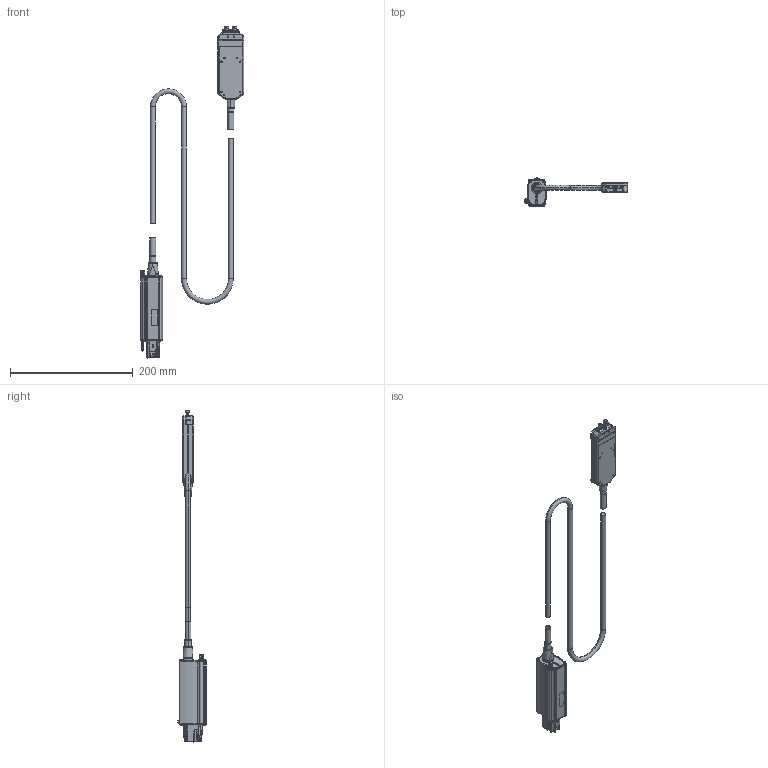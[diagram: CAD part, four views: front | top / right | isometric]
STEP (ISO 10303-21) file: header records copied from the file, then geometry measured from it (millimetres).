
FILE_DESCRIPTION((''),'2;1');
FILE_NAME('MASTER_SIGH_SGH_ASM','2022-02-28T10:57:19',('mthomps2'),(''),'CREO PARAMETRIC BY PTC INC, 2019080','CREO PARAMETRIC BY PTC INC, 2019080','');
FILE_SCHEMA(('CONFIG_CONTROL_DESIGN','SHAPE_APPEARANCE_LAYERS_GROUPS'));
Length unit declared in the file: inch
Products named in the file (44): MASTER_SKEL_SGH; PLATE_INTERFACE-TEKCON_CHT; NOSE_3_HPI; 211112500; BUTTON_LOCK_HPI; 211112900; MASTER_TEKCONNECT-COMMON_CHT_ASM; EXTRUSION_CONTROL_WSCREW_SGH; COVER_CONTROL-BOX_SGH; BRACKET_CONTROL_SGH; BRACKET_PCB-LABEL_SGH_ASM; COVER_CONTROL_MEMBRANE_SGH_ASM; PLATE_END_CONTROL-BOX; SCREW_THMB_2XL_SGH; CONN_BMA-34GHZ_SGH; BOOT_CB_SGH; CABLE_MAIN_HT_SHK_SV_SGH; CABLE_CONTROL_DRESS_SGH_ASM; NOSE_3_HPI_AF0; NOSE_MOD_HPI_ASK_ASM; MASTER_CONTROL-BOX_SGH_ASM; SKEL_MAINCABLE_SGH; CABLE_MAIN-RAW_SGH; BUSHING_PB-SV_SGH; BUSHING_INNER-CONE_SGH; BUSHING_PB-SV_SGH_ASM; CABLE_PROBEBODY_DRESS_SGH_ASM; MASTER_MAIN-CABLE-ASSY_SGH_ASM; PB_HOUSING_SGH; PB_HOUSING-COVER_SGH; LABEL_PB-TOP_SGH; LABEL_PB-BOT_SGH; PB_COVER-ESD_SGH; PBN_CISCO-ADAPT-BODY_SGH; SCREW_SHC_440_SGH; PBN_CISCO-ADAPT-LID_SGH; CONN_SW1014-21SF_SGH; SCREW_SHC_2-56X188_LIB_OBSOLETE; LABEL_CISCO-ADAPT-TOP_SGH; LABEL_CISCO_ADAPT-BOT_SGH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
Assembly tree (60 placements, depth 5):
  MASTER_SIGH_SGH_ASM
    MASTER_SKEL_SGH
    MASTER_CONTROL-BOX_SGH_ASM
      MASTER_TEKCONNECT-COMMON_CHT_ASM
        PLATE_INTERFACE-TEKCON_CHT
        NOSE_3_HPI
        211112500  x4
        BUTTON_LOCK_HPI
        211112900  x4
      EXTRUSION_CONTROL_WSCREW_SGH
      COVER_CONTROL_MEMBRANE_SGH_ASM
        BRACKET_PCB-LABEL_SGH_ASM
          COVER_CONTROL-BOX_SGH
          BRACKET_CONTROL_SGH
      PLATE_END_CONTROL-BOX
      SCREW_THMB_2XL_SGH
      211112900  x4
      CABLE_CONTROL_DRESS_SGH_ASM
        CONN_BMA-34GHZ_SGH
        PLATE_END_CONTROL-BOX
        BOOT_CB_SGH
        CABLE_MAIN_HT_SHK_SV_SGH
      NOSE_MOD_HPI_ASK_ASM
        NOSE_3_HPI_AF0
    MASTER_MAIN-CABLE-ASSY_SGH_ASM
      SKEL_MAINCABLE_SGH
      CABLE_CONTROL_DRESS_SGH_ASM
        CONN_BMA-34GHZ_SGH
        PLATE_END_CONTROL-BOX
        BOOT_CB_SGH
        CABLE_MAIN_HT_SHK_SV_SGH
      CABLE_MAIN-RAW_SGH
      CABLE_PROBEBODY_DRESS_SGH_ASM
        BUSHING_PB-SV_SGH_ASM
          BUSHING_PB-SV_SGH
          BUSHING_INNER-CONE_SGH
        CABLE_MAIN_HT_SHK_SV_SGH
    PB_HOUSING_SGH_ASM
      PB_HOUSING_SGH
      PB_HOUSING-COVER_SGH
      LABEL_PB-TOP_SGH
      LABEL_PB-BOT_SGH
      PB_COVER-ESD_SGH
      PBN_CISCO-ADAPT_SGH_ASM
        PBN_CISCO-ADAPT-BODY_SGH
        SCREW_SHC_440_SGH
        PBN_CISCO-ADAPT-LID_SGH
        CONN_SW1014-21SF_SGH  x2
        SCREW_SHC_2-56X188_LIB_OBSOLETE  x4
        LABEL_CISCO-ADAPT-TOP_SGH
        LABEL_CISCO_ADAPT-BOT_SGH
    LABEL_SERIAL_NO_SGH
Bounding box: 168.34 x 45.67 x 540.83 mm (x, y, z)
Volume: 131564.2 mm3; surface area: 147881.2 mm2
Topology: 52 solids, 75 shells, 3746 faces, 9377 edges, 5822 vertices
Faces by surface type: cylinder 1529, plane 1281, bspline 485, cone 223, torus 180, sphere 48
Entity records: 136707 total; most frequent: CARTESIAN_POINT 48226, ORIENTED_EDGE 14966, DIRECTION 14046, EDGE_CURVE 7527, AXIS2_PLACEMENT_3D 5225, PRESENTATION_STYLE_ASSIGNMENT 5122, STYLED_ITEM 4930, CURVE_STYLE 4766
